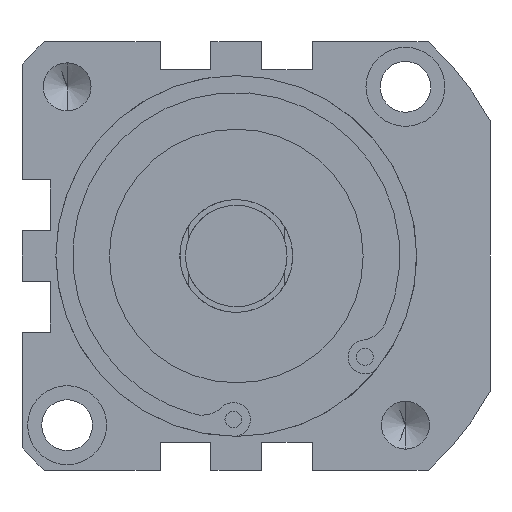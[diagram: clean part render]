
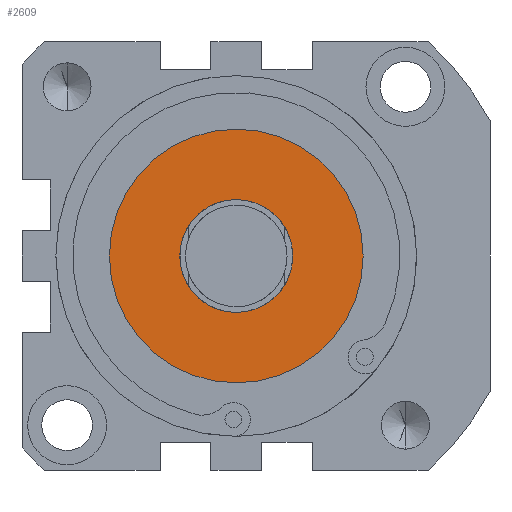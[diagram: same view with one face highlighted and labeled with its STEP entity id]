
A CAD part, front view. The second image highlights one B-rep face of the part: STEP entity #2609.
In plain terms, the highlighted planar face has unit normal (0, -1, 0).
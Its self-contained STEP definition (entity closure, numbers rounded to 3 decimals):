
#246 = VERTEX_POINT ( 'NONE', #3836 ) ;
#536 = DIRECTION ( 'NONE',  ( 0., 1., 0. ) ) ;
#593 = CIRCLE ( 'NONE', #4225, 22.5 ) ;
#600 = VERTEX_POINT ( 'NONE', #1502 ) ;
#624 = DIRECTION ( 'NONE',  ( 0., 0., 1. ) ) ;
#836 = AXIS2_PLACEMENT_3D ( 'NONE', #3357, #3704, #624 ) ;
#904 = CARTESIAN_POINT ( 'NONE',  ( 0., -66., 0. ) ) ;
#910 = EDGE_CURVE ( 'NONE', #246, #600, #3264, .T. ) ;
#1018 = DIRECTION ( 'NONE',  ( 0., 0., 1. ) ) ;
#1285 = ORIENTED_EDGE ( 'NONE', *, *, #910, .T. ) ;
#1468 = CARTESIAN_POINT ( 'NONE',  ( 0., -66., 0. ) ) ;
#1502 = CARTESIAN_POINT ( 'NONE',  ( 0., -66., -10. ) ) ;
#1713 = CARTESIAN_POINT ( 'NONE',  ( 0., -66., 0. ) ) ;
#1879 = CIRCLE ( 'NONE', #836, 10. ) ;
#1989 = AXIS2_PLACEMENT_3D ( 'NONE', #904, #536, #3366 ) ;
#2164 = EDGE_CURVE ( 'NONE', #600, #246, #1879, .T. ) ;
#2239 = DIRECTION ( 'NONE',  ( 0., 1., 0. ) ) ;
#2274 = CARTESIAN_POINT ( 'NONE',  ( 0., -66., 0. ) ) ;
#2292 = DIRECTION ( 'NONE',  ( 0., 0., 1. ) ) ;
#2431 = AXIS2_PLACEMENT_3D ( 'NONE', #1468, #3541, #3170 ) ;
#2609 = ADVANCED_FACE ( 'NONE', ( #3414, #3739 ), #4026, .F. ) ;
#2666 = EDGE_CURVE ( 'NONE', #3926, #2744, #4071, .T. ) ;
#2692 = ORIENTED_EDGE ( 'NONE', *, *, #2666, .F. ) ;
#2744 = VERTEX_POINT ( 'NONE', #3320 ) ;
#2894 = EDGE_CURVE ( 'NONE', #2744, #3926, #593, .T. ) ;
#3170 = DIRECTION ( 'NONE',  ( 0., 0., 1. ) ) ;
#3264 = CIRCLE ( 'NONE', #2431, 10. ) ;
#3320 = CARTESIAN_POINT ( 'NONE',  ( 0., -66., -22.5 ) ) ;
#3357 = CARTESIAN_POINT ( 'NONE',  ( 0., -66., 0. ) ) ;
#3366 = DIRECTION ( 'NONE',  ( 0., 0., 1. ) ) ;
#3393 = EDGE_LOOP ( 'NONE', ( #4492, #2692 ) ) ;
#3412 = AXIS2_PLACEMENT_3D ( 'NONE', #2274, #2239, #2292 ) ;
#3414 = FACE_BOUND ( 'NONE', #3456, .T. ) ;
#3456 = EDGE_LOOP ( 'NONE', ( #1285, #4049 ) ) ;
#3541 = DIRECTION ( 'NONE',  ( 0., 1., 0. ) ) ;
#3704 = DIRECTION ( 'NONE',  ( 0., 1., 0. ) ) ;
#3739 = FACE_OUTER_BOUND ( 'NONE', #3393, .T. ) ;
#3836 = CARTESIAN_POINT ( 'NONE',  ( 0., -66., 10. ) ) ;
#3926 = VERTEX_POINT ( 'NONE', #4223 ) ;
#4026 = PLANE ( 'NONE',  #3412 ) ;
#4049 = ORIENTED_EDGE ( 'NONE', *, *, #2164, .T. ) ;
#4071 = CIRCLE ( 'NONE', #1989, 22.5 ) ;
#4165 = DIRECTION ( 'NONE',  ( 0., 1., 0. ) ) ;
#4223 = CARTESIAN_POINT ( 'NONE',  ( 0., -66., 22.5 ) ) ;
#4225 = AXIS2_PLACEMENT_3D ( 'NONE', #1713, #4165, #1018 ) ;
#4492 = ORIENTED_EDGE ( 'NONE', *, *, #2894, .F. ) ;
